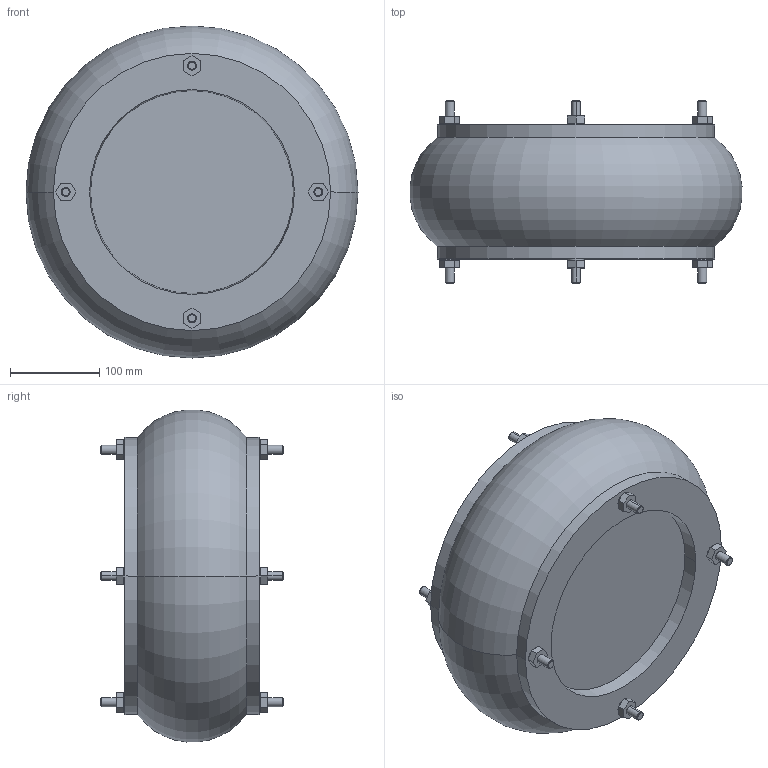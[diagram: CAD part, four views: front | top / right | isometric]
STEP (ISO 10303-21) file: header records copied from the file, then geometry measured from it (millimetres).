
FILE_DESCRIPTION((''),'2;1');
FILE_NAME('R412020589_MAX','2023-08-01T17:28:31',('VAU3HC'),(''),'CREO PARAMETRIC BY PTC INC, 2020044','CREO PARAMETRIC BY PTC INC, 2020044','');
FILE_SCHEMA(('CONFIG_CONTROL_DESIGN','SHAPE_APPEARANCE_LAYERS_GROUPS'));
Length unit declared in the file: millimetre
Products named in the file (1): R412020589_MAX
Bounding box: 371.45 x 204 x 371.45 mm (x, y, z)
Volume: 8063336 mm3; surface area: 536641.3 mm2
Topology: 1 solids, 1 shells, 143 faces, 316 edges, 204 vertices
Faces by surface type: plane 79, cylinder 42, cone 20, torus 2
Entity records: 6561 total; most frequent: DIRECTION 712, CARTESIAN_POINT 663, ORIENTED_EDGE 632, PRESENTATION_STYLE_ASSIGNMENT 451, STYLED_ITEM 317, CURVE_STYLE 316, EDGE_CURVE 316, FILL_AREA_STYLE_COLOUR 269
